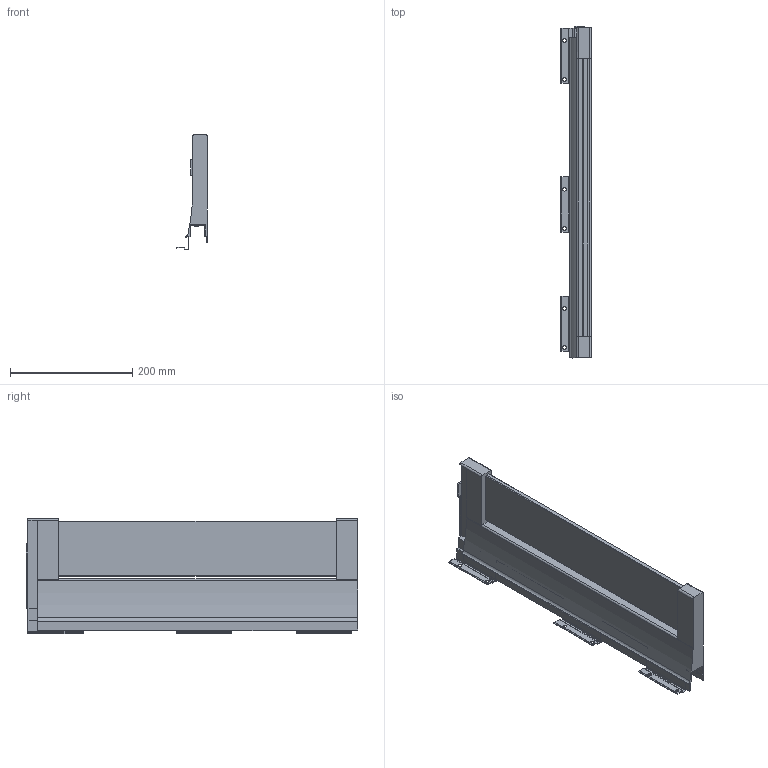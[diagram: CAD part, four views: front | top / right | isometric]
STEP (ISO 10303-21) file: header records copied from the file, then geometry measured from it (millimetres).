
FILE_DESCRIPTION (( 'STEP AP214' ), '1' );
FILE_NAME ('_XP Agantis Dekorseite H95 NL550 RE Top Glashalter.step', '2010-07-08T06:16:00', ( 'grass' ), ( '' ), 'SwSTEP 2.0', 'SolidWorks 2010', '' );
FILE_SCHEMA (( 'AUTOMOTIVE_DESIGN' ));
Length unit declared in the file: millimetre
Products named in the file (1): _XP Agantis Dekorseite H95 NL550 RE Top Glashalter
Bounding box: 50.11 x 542.6 x 188.7 mm (x, y, z)
Volume: 1287654.1 mm3; surface area: 292382.8 mm2
Topology: 1 solids, 1 shells, 162 faces, 476 edges, 311 vertices
Faces by surface type: plane 131, cylinder 31
Entity records: 5386 total; most frequent: ORIENTED_EDGE 952, CARTESIAN_POINT 950, DIRECTION 866, EDGE_CURVE 476, VECTOR 412, LINE 412, VERTEX_POINT 311, AXIS2_PLACEMENT_3D 227
